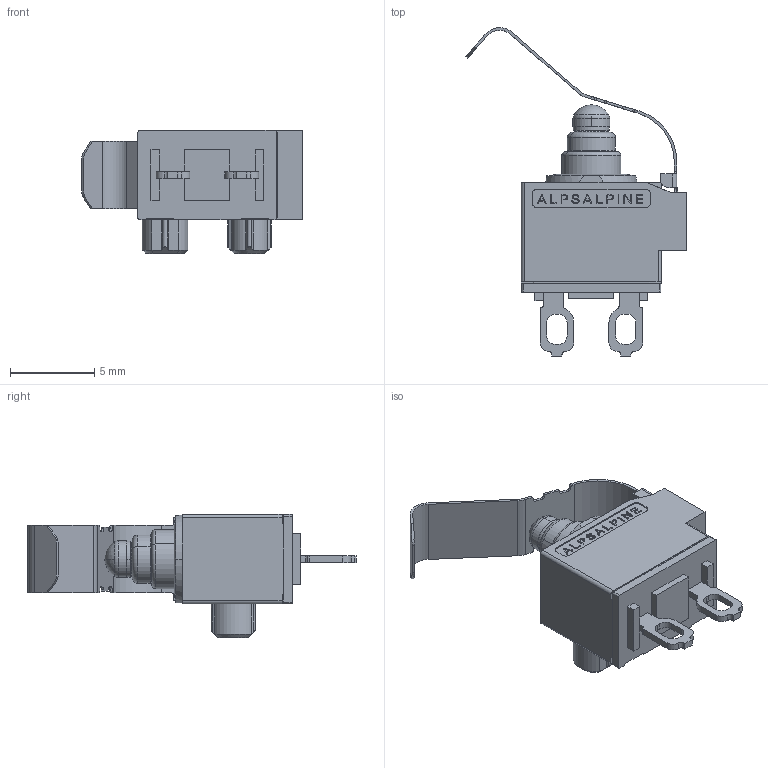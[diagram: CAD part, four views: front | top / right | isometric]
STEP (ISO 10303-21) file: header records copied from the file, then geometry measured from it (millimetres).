
FILE_DESCRIPTION (( 'STEP AP214' ), '1' );
FILE_NAME ('SOLID^SPVQ822600.STEP', '2021-03-01T07:39:18', ( '' ), ( '' ), 'SwSTEP 2.0', 'SolidWorks 2019', '' );
FILE_SCHEMA (( 'AUTOMOTIVE_DESIGN' ));
Length unit declared in the file: millimetre
Products named in the file (1): SOLID^SPVQ822600
Bounding box: 13.06 x 19.47 x 7.3 mm (x, y, z)
Volume: 376.6 mm3; surface area: 573.1 mm2
Topology: 1 solids, 1 shells, 499 faces, 1353 edges, 882 vertices
Faces by surface type: plane 251, cylinder 106, bspline 99, cone 18, torus 17, sphere 8
Entity records: 23745 total; most frequent: CARTESIAN_POINT 6806, ORIENTED_EDGE 2698, DIRECTION 2199, EDGE_CURVE 1349, VERTEX_POINT 882, VECTOR 845, LINE 845, AXIS2_PLACEMENT_3D 677
